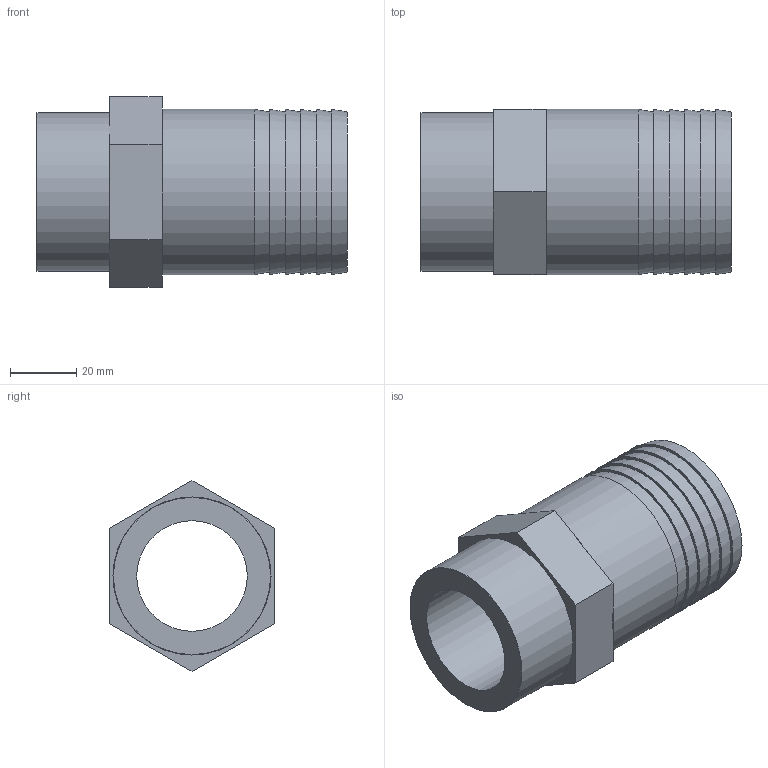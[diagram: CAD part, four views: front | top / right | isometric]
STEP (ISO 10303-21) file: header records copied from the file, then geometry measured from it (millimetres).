
FILE_DESCRIPTION(/* description */ ('PLASSON THREADED HOSE NOZZLE 1.1/2"-50'),/* implementation_level */ '2;1');
FILE_NAME(/* name */ 'C:\Dropbox\KIMPROJECTS-Inventor\99-16-3568-Processing\PVC Catalog 2017\053601\053601050015.ipt.stp',/* time_stamp */ '2017-12-07T16:03:25+02:00',/* author */ ('KIM'),/* organization */ (''),/* preprocessor_version */ 'ST-DEVELOPER v15.6',/* originating_system */ 'Autodesk Inventor 2015',/* authorisation */ '');
FILE_SCHEMA (('AUTOMOTIVE_DESIGN { 1 0 10303 214 3 1 1 }'));
Length unit declared in the file: millimetre
Products named in the file (1): 053601050015
Bounding box: 94 x 50 x 57.73 mm (x, y, z)
Volume: 99599.8 mm3; surface area: 27822.7 mm2
Topology: 1 solids, 1 shells, 30 faces, 57 edges, 35 vertices
Faces by surface type: plane 20, cone 6, cylinder 3, torus 1
Full cylindrical faces by diameter (mm): 33.462 x1, 47.803 x1, 50 x1
Entity records: 730 total; most frequent: DIRECTION 132, CARTESIAN_POINT 113, ORIENTED_EDGE 94, AXIS2_PLACEMENT_3D 54, EDGE_LOOP 48, EDGE_CURVE 47, VERTEX_POINT 35, FACE_OUTER_BOUND 30
